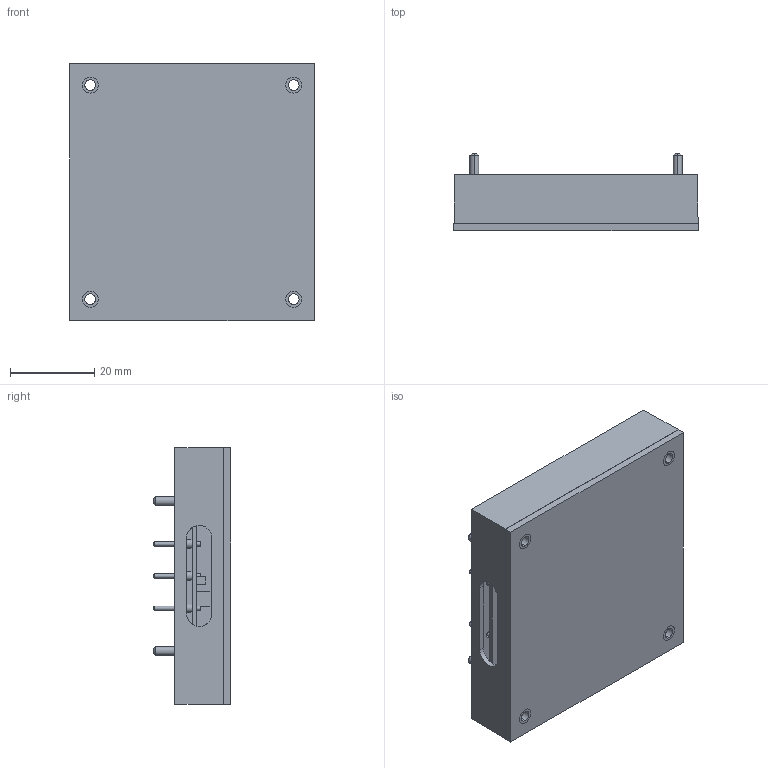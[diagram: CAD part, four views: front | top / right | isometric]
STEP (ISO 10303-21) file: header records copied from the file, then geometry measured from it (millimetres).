
FILE_DESCRIPTION (( 'STEP AP203' ), '1' );
FILE_NAME ('QSB150.STEP', '2019-05-15T09:05:31', ( '' ), ( '' ), 'SwSTEP 2.0', 'SolidWorks 2017', '' );
FILE_SCHEMA (( 'CONFIG_CONTROL_DESIGN' ));
Length unit declared in the file: millimetre
Products named in the file (6): QSB150_CASE; QSB150_PINS; QSB150_INSERT; QSB150; QSB150_BASE_ASSY; QSB150_BASE
Assembly tree (8 placements, depth 3):
  QSB150
    QSB150_CASE
    QSB150_BASE_ASSY
      QSB150_BASE
      QSB150_INSERT  x4
      QSB150_PINS
Bounding box: 57.92 x 18.42 x 61.02 mm (x, y, z)
Volume: 14174.6 mm3; surface area: 22696.6 mm2
Topology: 8 solids, 8 shells, 288 faces, 645 edges, 418 vertices
Faces by surface type: cylinder 127, plane 101, cone 60
Entity records: 7817 total; most frequent: DIRECTION 1349, CARTESIAN_POINT 1201, ORIENTED_EDGE 1122, EDGE_CURVE 561, AXIS2_PLACEMENT_3D 536, VERTEX_POINT 364, EDGE_LOOP 327, CIRCLE 278
